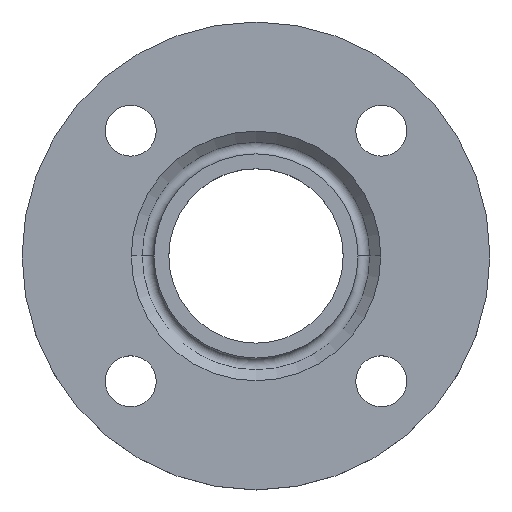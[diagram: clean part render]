
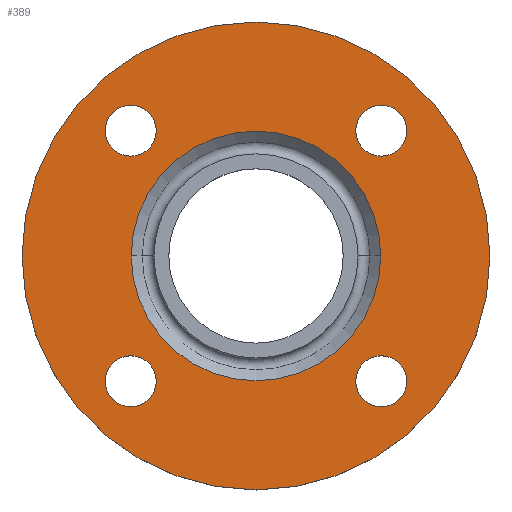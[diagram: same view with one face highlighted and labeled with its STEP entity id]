
A CAD part, top view. The second image highlights one B-rep face of the part: STEP entity #389.
In plain terms, the highlighted planar face has unit normal (0, 0, 1).
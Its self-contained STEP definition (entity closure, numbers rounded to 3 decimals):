
#7 = CIRCLE ( 'NONE', #125, 9. ) ;
#9 = CARTESIAN_POINT ( 'NONE',  ( -53.194, -44.194, -2. ) ) ;
#14 = CIRCLE ( 'NONE', #101, 9. ) ;
#15 = CARTESIAN_POINT ( 'NONE',  ( 53.194, -44.194, -2. ) ) ;
#18 = AXIS2_PLACEMENT_3D ( 'NONE', #236, #235, #234 ) ;
#22 = AXIS2_PLACEMENT_3D ( 'NONE', #35, #34, #31 ) ;
#24 = EDGE_CURVE ( 'NONE', #645, #641, #7, .T. ) ;
#28 = CARTESIAN_POINT ( 'NONE',  ( 44., 0., -2. ) ) ;
#31 = DIRECTION ( 'NONE',  ( 1., 0., 0. ) ) ;
#34 = DIRECTION ( 'NONE',  ( 0., 0., -1. ) ) ;
#35 = CARTESIAN_POINT ( 'NONE',  ( 44.194, -44.194, -2. ) ) ;
#41 = CIRCLE ( 'NONE', #22, 9. ) ;
#47 = CARTESIAN_POINT ( 'NONE',  ( -44., 0., -2. ) ) ;
#60 = CIRCLE ( 'NONE', #84, 9. ) ;
#84 = AXIS2_PLACEMENT_3D ( 'NONE', #205, #204, #203 ) ;
#101 = AXIS2_PLACEMENT_3D ( 'NONE', #242, #241, #240 ) ;
#102 = ORIENTED_EDGE ( 'NONE', *, *, #327, .T. ) ;
#103 = ORIENTED_EDGE ( 'NONE', *, *, #377, .T. ) ;
#105 = ORIENTED_EDGE ( 'NONE', *, *, #508, .T. ) ;
#106 = ORIENTED_EDGE ( 'NONE', *, *, #352, .T. ) ;
#114 = DIRECTION ( 'NONE',  ( 0., 0., 1. ) ) ;
#116 = CARTESIAN_POINT ( 'NONE',  ( 82.5, 0., -2. ) ) ;
#117 = PLANE ( 'NONE',  #226 ) ;
#118 = FACE_OUTER_BOUND ( 'NONE', #580, .T. ) ;
#119 = FACE_BOUND ( 'NONE', #576, .T. ) ;
#120 = EDGE_CURVE ( 'NONE', #623, #665, #228, .T. ) ;
#121 = FACE_BOUND ( 'NONE', #574, .T. ) ;
#122 = FACE_BOUND ( 'NONE', #567, .T. ) ;
#125 = AXIS2_PLACEMENT_3D ( 'NONE', #514, #513, #512 ) ;
#127 = FACE_BOUND ( 'NONE', #522, .T. ) ;
#128 = FACE_BOUND ( 'NONE', #521, .T. ) ;
#136 = DIRECTION ( 'NONE',  ( 1., 0., 0. ) ) ;
#145 = CIRCLE ( 'NONE', #586, 44. ) ;
#146 = AXIS2_PLACEMENT_3D ( 'NONE', #183, #179, #176 ) ;
#163 = DIRECTION ( 'NONE',  ( 1., 0., 0. ) ) ;
#165 = DIRECTION ( 'NONE',  ( 0., 0., -1. ) ) ;
#166 = CARTESIAN_POINT ( 'NONE',  ( -44.194, -44.194, -2. ) ) ;
#168 = DIRECTION ( 'NONE',  ( -1., 0., 0. ) ) ;
#171 = DIRECTION ( 'NONE',  ( 0., 0., -1. ) ) ;
#173 = CARTESIAN_POINT ( 'NONE',  ( 0., 0., -2. ) ) ;
#176 = DIRECTION ( 'NONE',  ( 1., 0., 0. ) ) ;
#177 = EDGE_CURVE ( 'NONE', #641, #645, #178, .T. ) ;
#178 = CIRCLE ( 'NONE', #230, 9. ) ;
#179 = DIRECTION ( 'NONE',  ( 0., 0., -1. ) ) ;
#181 = CARTESIAN_POINT ( 'NONE',  ( -53.194, 44.194, -2. ) ) ;
#183 = CARTESIAN_POINT ( 'NONE',  ( 44.194, -44.194, -2. ) ) ;
#184 = DIRECTION ( 'NONE',  ( -1., 0., 0. ) ) ;
#186 = DIRECTION ( 'NONE',  ( 0., 0., -1. ) ) ;
#192 = CARTESIAN_POINT ( 'NONE',  ( 0., 0., -2. ) ) ;
#199 = EDGE_CURVE ( 'NONE', #665, #623, #293, .T. ) ;
#202 = CARTESIAN_POINT ( 'NONE',  ( -35.194, 44.194, -2. ) ) ;
#203 = DIRECTION ( 'NONE',  ( 1., 0., 0. ) ) ;
#204 = DIRECTION ( 'NONE',  ( 0., 0., -1. ) ) ;
#205 = CARTESIAN_POINT ( 'NONE',  ( -44.194, 44.194, -2. ) ) ;
#219 = ORIENTED_EDGE ( 'NONE', *, *, #324, .T. ) ;
#221 = ORIENTED_EDGE ( 'NONE', *, *, #24, .T. ) ;
#222 = ORIENTED_EDGE ( 'NONE', *, *, #177, .T. ) ;
#226 = AXIS2_PLACEMENT_3D ( 'NONE', #116, #114, #136 ) ;
#228 = CIRCLE ( 'NONE', #306, 82.5 ) ;
#230 = AXIS2_PLACEMENT_3D ( 'NONE', #314, #320, #323 ) ;
#234 = DIRECTION ( 'NONE',  ( 1., 0., 0. ) ) ;
#235 = DIRECTION ( 'NONE',  ( 0., 0., -1. ) ) ;
#236 = CARTESIAN_POINT ( 'NONE',  ( -44.194, -44.194, -2. ) ) ;
#240 = DIRECTION ( 'NONE',  ( 1., 0., 0. ) ) ;
#241 = DIRECTION ( 'NONE',  ( 0., 0., -1. ) ) ;
#242 = CARTESIAN_POINT ( 'NONE',  ( -44.194, 44.194, -2. ) ) ;
#255 = CIRCLE ( 'NONE', #146, 9. ) ;
#266 = CARTESIAN_POINT ( 'NONE',  ( 82.5, 0., -2. ) ) ;
#274 = CIRCLE ( 'NONE', #18, 9. ) ;
#291 = AXIS2_PLACEMENT_3D ( 'NONE', #299, #297, #296 ) ;
#293 = CIRCLE ( 'NONE', #291, 82.5 ) ;
#296 = DIRECTION ( 'NONE',  ( -1., 0., 0. ) ) ;
#297 = DIRECTION ( 'NONE',  ( 0., 0., -1. ) ) ;
#299 = CARTESIAN_POINT ( 'NONE',  ( 0., 0., -2. ) ) ;
#306 = AXIS2_PLACEMENT_3D ( 'NONE', #424, #422, #420 ) ;
#314 = CARTESIAN_POINT ( 'NONE',  ( 44.194, 44.194, -2. ) ) ;
#320 = DIRECTION ( 'NONE',  ( 0., 0., -1. ) ) ;
#323 = DIRECTION ( 'NONE',  ( 1., 0., 0. ) ) ;
#324 = EDGE_CURVE ( 'NONE', #619, #355, #14, .T. ) ;
#327 = EDGE_CURVE ( 'NONE', #669, #568, #274, .T. ) ;
#338 = ORIENTED_EDGE ( 'NONE', *, *, #376, .T. ) ;
#345 = ORIENTED_EDGE ( 'NONE', *, *, #374, .T. ) ;
#346 = ORIENTED_EDGE ( 'NONE', *, *, #120, .F. ) ;
#348 = ORIENTED_EDGE ( 'NONE', *, *, #199, .F. ) ;
#352 = EDGE_CURVE ( 'NONE', #355, #619, #60, .T. ) ;
#353 = CARTESIAN_POINT ( 'NONE',  ( 35.194, 44.194, -2. ) ) ;
#355 = VERTEX_POINT ( 'NONE', #202 ) ;
#374 = EDGE_CURVE ( 'NONE', #608, #519, #145, .T. ) ;
#375 = EDGE_CURVE ( 'NONE', #535, #600, #255, .T. ) ;
#376 = EDGE_CURVE ( 'NONE', #519, #608, #461, .T. ) ;
#377 = EDGE_CURVE ( 'NONE', #568, #669, #593, .T. ) ;
#384 = CARTESIAN_POINT ( 'NONE',  ( 53.194, 44.194, -2. ) ) ;
#389 = ADVANCED_FACE ( 'NONE', ( #128, #127, #122, #121, #119, #118 ), #117, .T. ) ;
#420 = DIRECTION ( 'NONE',  ( -1., 0., 0. ) ) ;
#422 = DIRECTION ( 'NONE',  ( 0., 0., -1. ) ) ;
#424 = CARTESIAN_POINT ( 'NONE',  ( 0., 0., -2. ) ) ;
#461 = CIRCLE ( 'NONE', #477, 44. ) ;
#477 = AXIS2_PLACEMENT_3D ( 'NONE', #173, #171, #168 ) ;
#508 = EDGE_CURVE ( 'NONE', #600, #535, #41, .T. ) ;
#512 = DIRECTION ( 'NONE',  ( 1., 0., 0. ) ) ;
#513 = DIRECTION ( 'NONE',  ( 0., 0., -1. ) ) ;
#514 = CARTESIAN_POINT ( 'NONE',  ( 44.194, 44.194, -2. ) ) ;
#519 = VERTEX_POINT ( 'NONE', #28 ) ;
#521 = EDGE_LOOP ( 'NONE', ( #533, #105 ) ) ;
#522 = EDGE_LOOP ( 'NONE', ( #102, #103 ) ) ;
#533 = ORIENTED_EDGE ( 'NONE', *, *, #375, .T. ) ;
#535 = VERTEX_POINT ( 'NONE', #15 ) ;
#567 = EDGE_LOOP ( 'NONE', ( #106, #219 ) ) ;
#568 = VERTEX_POINT ( 'NONE', #9 ) ;
#574 = EDGE_LOOP ( 'NONE', ( #221, #222 ) ) ;
#576 = EDGE_LOOP ( 'NONE', ( #338, #345 ) ) ;
#580 = EDGE_LOOP ( 'NONE', ( #346, #348 ) ) ;
#586 = AXIS2_PLACEMENT_3D ( 'NONE', #192, #186, #184 ) ;
#593 = CIRCLE ( 'NONE', #603, 9. ) ;
#600 = VERTEX_POINT ( 'NONE', #664 ) ;
#603 = AXIS2_PLACEMENT_3D ( 'NONE', #166, #165, #163 ) ;
#608 = VERTEX_POINT ( 'NONE', #47 ) ;
#619 = VERTEX_POINT ( 'NONE', #181 ) ;
#623 = VERTEX_POINT ( 'NONE', #266 ) ;
#641 = VERTEX_POINT ( 'NONE', #353 ) ;
#645 = VERTEX_POINT ( 'NONE', #384 ) ;
#664 = CARTESIAN_POINT ( 'NONE',  ( 35.194, -44.194, -2. ) ) ;
#665 = VERTEX_POINT ( 'NONE', #677 ) ;
#669 = VERTEX_POINT ( 'NONE', #674 ) ;
#674 = CARTESIAN_POINT ( 'NONE',  ( -35.194, -44.194, -2. ) ) ;
#677 = CARTESIAN_POINT ( 'NONE',  ( -82.5, 0., -2. ) ) ;
